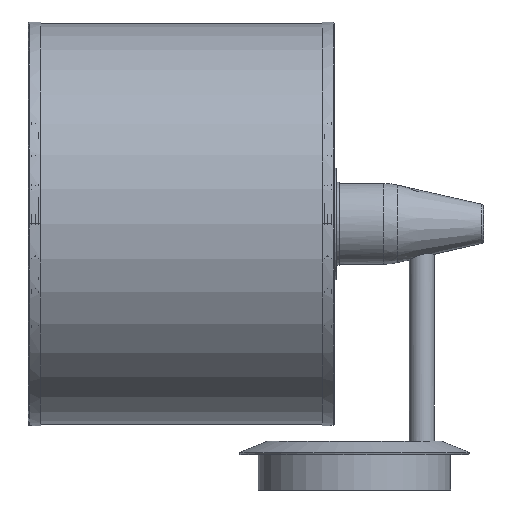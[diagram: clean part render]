
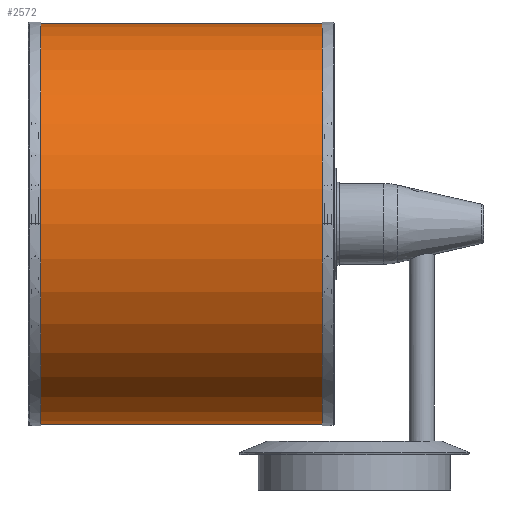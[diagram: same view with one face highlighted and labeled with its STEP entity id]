
A CAD part, left-side view. The second image highlights one B-rep face of the part: STEP entity #2572.
In plain terms, the highlighted cylindrical face has radius 104.2 mm (diameter 208.4 mm), a partial arc.
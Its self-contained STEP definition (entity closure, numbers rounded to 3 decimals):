
#318=FACE_OUTER_BOUND('',#496,.T.);
#496=EDGE_LOOP('',(#2115,#2116,#2117,#2118));
#652=CIRCLE('',#2850,104.2);
#654=CIRCLE('',#2854,104.2);
#847=LINE('',#4466,#1023);
#848=LINE('',#4467,#1024);
#1023=VECTOR('',#3527,304.8);
#1024=VECTOR('',#3528,304.8);
#1195=VERTEX_POINT('',#4450);
#1196=VERTEX_POINT('',#4452);
#1197=VERTEX_POINT('',#4458);
#1198=VERTEX_POINT('',#4460);
#1506=EDGE_CURVE('',#1196,#1195,#652,.T.);
#1510=EDGE_CURVE('',#1198,#1197,#654,.T.);
#1511=EDGE_CURVE('',#1197,#1196,#847,.T.);
#1512=EDGE_CURVE('',#1195,#1198,#848,.T.);
#2115=ORIENTED_EDGE('',*,*,#1511,.T.);
#2116=ORIENTED_EDGE('',*,*,#1506,.T.);
#2117=ORIENTED_EDGE('',*,*,#1512,.T.);
#2118=ORIENTED_EDGE('',*,*,#1510,.T.);
#2436=CYLINDRICAL_SURFACE('',#2856,104.2);
#2572=ADVANCED_FACE('',(#318),#2436,.T.);
#2850=AXIS2_PLACEMENT_3D('',#4456,#3513,#3514);
#2854=AXIS2_PLACEMENT_3D('',#4464,#3523,#3524);
#2856=AXIS2_PLACEMENT_3D('',#4468,#3529,#3530);
#3513=DIRECTION('center_axis',(0.,0.,1.));
#3514=DIRECTION('ref_axis',(0.,-1.,0.));
#3523=DIRECTION('center_axis',(0.,0.,-1.));
#3524=DIRECTION('ref_axis',(0.,-1.,0.));
#3527=DIRECTION('',(0.,0.,-1.));
#3528=DIRECTION('',(0.,0.,1.));
#3529=DIRECTION('center_axis',(0.,0.,-1.));
#3530=DIRECTION('ref_axis',(0.,-1.,0.));
#4450=CARTESIAN_POINT('',(0.,-104.2,5.234));
#4452=CARTESIAN_POINT('',(0.,104.2,5.234));
#4456=CARTESIAN_POINT('Origin',(0.,0.,
5.234));
#4458=CARTESIAN_POINT('',(0.,104.2,154.163));
#4460=CARTESIAN_POINT('',(0.,-104.2,154.163));
#4464=CARTESIAN_POINT('Origin',(0.,0.,
154.163));
#4466=CARTESIAN_POINT('',(0.,104.2,154.163));
#4467=CARTESIAN_POINT('',(0.,-104.2,5.234));
#4468=CARTESIAN_POINT('Origin',(0.,0.,
1792.931));
